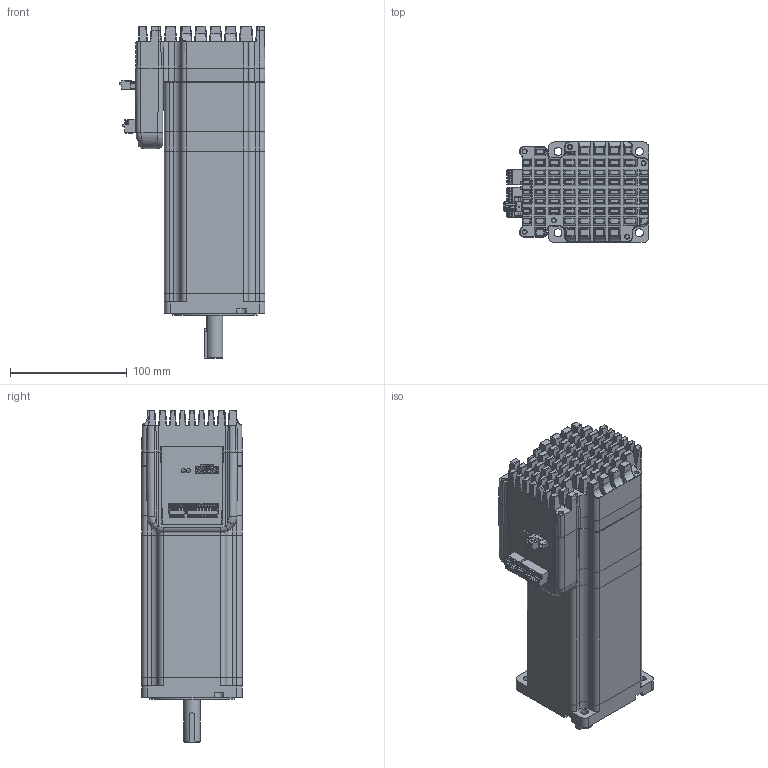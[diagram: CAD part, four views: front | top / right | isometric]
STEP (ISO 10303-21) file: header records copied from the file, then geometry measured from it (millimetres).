
FILE_DESCRIPTION(/* description */ (''),/* implementation_level */ '2;1');
FILE_NAME(/* name */ '_model4.stp',/* time_stamp */ '2025-01-15T10:05:51+08:00',/* author */ (''),/* organization */ (''),/* preprocessor_version */ 'ST-DEVELOPER v16',/* originating_system */ 'SIEMENS PLM Software NX 10.0',/* authorisation */ '');
FILE_SCHEMA (('AUTOMOTIVE_DESIGN { 1 0 10303 214 3 1 1 1 }'));
Products named in the file (1): Admi1028317A3uua
Bounding box: 124.8 x 86 x 284.08 mm (x, y, z)
Volume: 1285448.6 mm3; surface area: 302106.1 mm2
Topology: 81 solids, 183 shells, 6644 faces, 18404 edges, 11980 vertices
Faces by surface type: plane 4628, cylinder 1453, sphere 292, cone 154, bspline 58, extrusion 36, torus 23
Full cylindrical faces by diameter (mm): 0.457 x5, 1 x8, 1.2 x15, 1.5 x15, 1.6 x27, 1.75 x2, 2 x6, 2.5 x18, 2.95 x2, 3 x12, 3.5 x10, 3.75 x2, 3.8 x10, 3.9 x2, 4.3 x6, 4.5 x4, 6.8 x4, 9.468 x1, 10 x1, 14 x2, 17 x2, 18 x1, 73 x1, 81 x1
Entity records: 211709 total; most frequent: CARTESIAN_POINT 45483, ORIENTED_EDGE 33428, DIRECTION 32768, EDGE_CURVE 17779, VECTOR 13336, LINE 13300, VERTEX_POINT 11833, AXIS2_PLACEMENT_3D 9716
